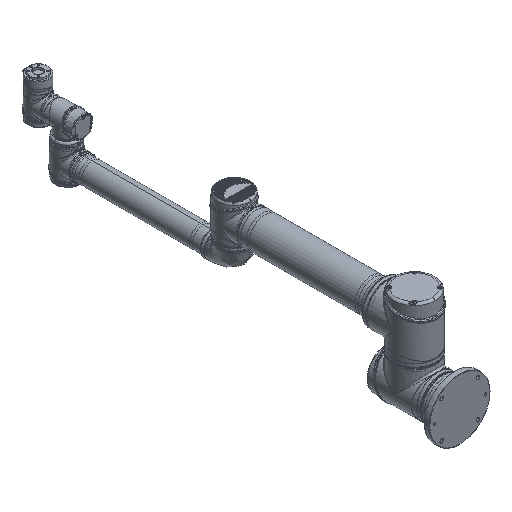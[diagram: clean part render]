
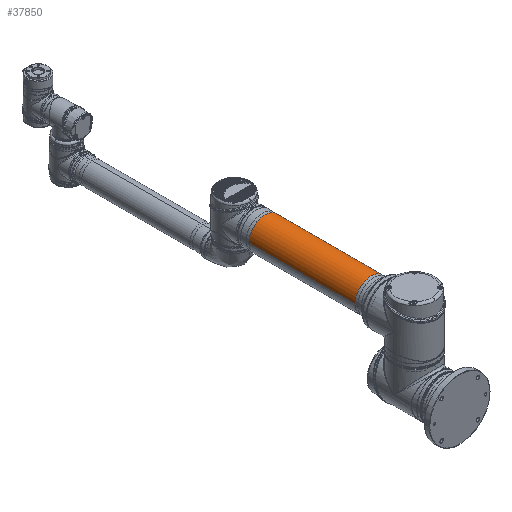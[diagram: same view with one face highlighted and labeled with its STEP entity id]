
A CAD part, isometric view. The second image highlights one B-rep face of the part: STEP entity #37850.
In plain terms, the highlighted cylindrical face has radius 58 mm (diameter 116 mm), a partial arc.
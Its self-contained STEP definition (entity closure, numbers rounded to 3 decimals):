
#1940 = LINE ( 'NONE', #76469, #178014 ) ;
#8220 = DIRECTION ( 'NONE',  ( 0., 0., 1. ) ) ;
#13457 = ORIENTED_EDGE ( 'NONE', *, *, #54987, .T. ) ;
#14008 = DIRECTION ( 'NONE',  ( 0., 0., 1. ) ) ;
#37850 = ADVANCED_FACE ( 'NONE', ( #82728 ), #169617, .T. ) ;
#38544 = CARTESIAN_POINT ( 'NONE',  ( 0., 87., -58. ) ) ;
#42107 = CARTESIAN_POINT ( 'NONE',  ( 0., 536., -58. ) ) ;
#48224 = ORIENTED_EDGE ( 'NONE', *, *, #133209, .T. ) ;
#54987 = EDGE_CURVE ( 'NONE', #101398, #64851, #79613, .T. ) ;
#64851 = VERTEX_POINT ( 'NONE', #77433 ) ;
#68903 = AXIS2_PLACEMENT_3D ( 'NONE', #69472, #184670, #8220 ) ;
#69472 = CARTESIAN_POINT ( 'NONE',  ( 0., 87., 0. ) ) ;
#71542 = CARTESIAN_POINT ( 'NONE',  ( 0., 536., 0. ) ) ;
#71995 = CIRCLE ( 'NONE', #126404, 58. ) ;
#76469 = CARTESIAN_POINT ( 'NONE',  ( 0., 87., 58. ) ) ;
#77433 = CARTESIAN_POINT ( 'NONE',  ( 0., 155.3, 58. ) ) ;
#79613 = CIRCLE ( 'NONE', #85495, 58. ) ;
#82307 = EDGE_CURVE ( 'NONE', #87485, #91612, #71995, .T. ) ;
#82728 = FACE_OUTER_BOUND ( 'NONE', #148744, .T. ) ;
#85392 = CARTESIAN_POINT ( 'NONE',  ( 0., 536., 58. ) ) ;
#85495 = AXIS2_PLACEMENT_3D ( 'NONE', #180661, #177883, #163699 ) ;
#87485 = VERTEX_POINT ( 'NONE', #42107 ) ;
#91612 = VERTEX_POINT ( 'NONE', #85392 ) ;
#101398 = VERTEX_POINT ( 'NONE', #179593 ) ;
#120862 = DIRECTION ( 'NONE',  ( 0., 1., 0. ) ) ;
#124953 = VECTOR ( 'NONE', #137756, 1000. ) ;
#125713 = EDGE_CURVE ( 'NONE', #101398, #87485, #182940, .T. ) ;
#126404 = AXIS2_PLACEMENT_3D ( 'NONE', #71542, #184897, #14008 ) ;
#129391 = ORIENTED_EDGE ( 'NONE', *, *, #125713, .F. ) ;
#133209 = EDGE_CURVE ( 'NONE', #64851, #91612, #1940, .T. ) ;
#136949 = ORIENTED_EDGE ( 'NONE', *, *, #82307, .F. ) ;
#137756 = DIRECTION ( 'NONE',  ( 0., 1., 0. ) ) ;
#148744 = EDGE_LOOP ( 'NONE', ( #129391, #13457, #48224, #136949 ) ) ;
#163699 = DIRECTION ( 'NONE',  ( 0., 0., 1. ) ) ;
#169617 = CYLINDRICAL_SURFACE ( 'NONE', #68903, 58. ) ;
#177883 = DIRECTION ( 'NONE',  ( 0., 1., 0. ) ) ;
#178014 = VECTOR ( 'NONE', #120862, 1000. ) ;
#179593 = CARTESIAN_POINT ( 'NONE',  ( 0., 155.3, -58. ) ) ;
#180661 = CARTESIAN_POINT ( 'NONE',  ( 0., 155.3, 0. ) ) ;
#182940 = LINE ( 'NONE', #38544, #124953 ) ;
#184670 = DIRECTION ( 'NONE',  ( 0., 1., 0. ) ) ;
#184897 = DIRECTION ( 'NONE',  ( 0., 1., 0. ) ) ;
